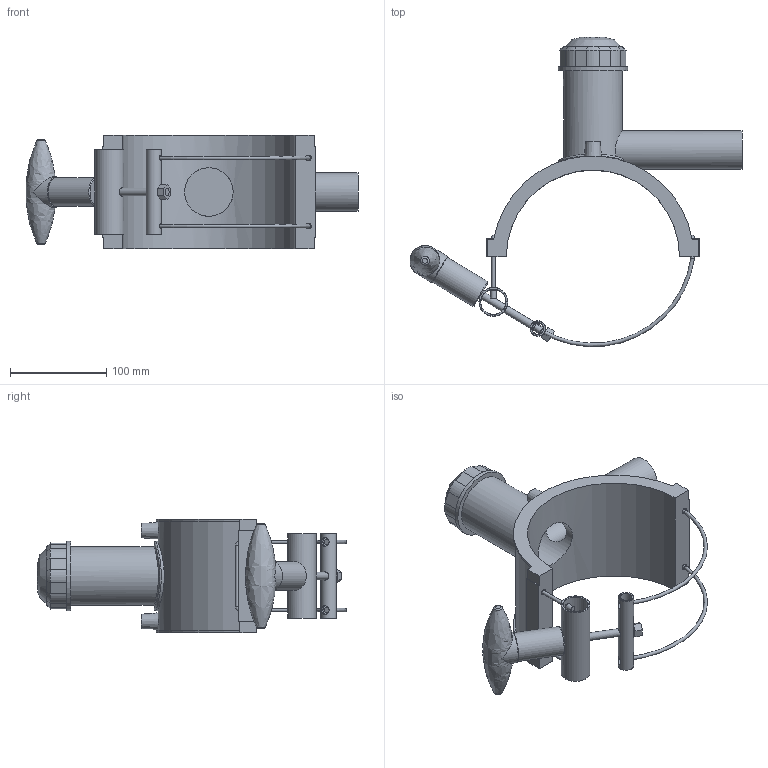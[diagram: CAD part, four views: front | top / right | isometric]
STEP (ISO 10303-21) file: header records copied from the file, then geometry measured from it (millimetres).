
FILE_DESCRIPTION(/* description */ ('PLASSON TAPPING SADDLE 180x40'),/* implementation_level */ '2;1');
FILE_NAME(/* name */ 'C:\Dropbox\99-16-3568-Processing\ElectroFusion Fittings\4963Q4 (new clamping)\4963Q4180040.ipt.stp',/* time_stamp */ '2021-03-07T12:51:38+02:00',/* author */ ('KIM'),/* organization */ (''),/* preprocessor_version */ 'ST-DEVELOPER v17.2',/* originating_system */ 'Autodesk Inventor 2019',/* authorisation */ '');
FILE_SCHEMA (('AUTOMOTIVE_DESIGN { 1 0 10303 214 3 1 1 }'));
Length unit declared in the file: millimetre
Products named in the file (1): 4963Q4180040
Bounding box: 345.18 x 321.47 x 118 mm (x, y, z)
Volume: 845983.4 mm3; surface area: 211003.8 mm2
Topology: 6 solids, 6 shells, 176 faces, 447 edges, 295 vertices
Faces by surface type: plane 83, cylinder 58, cone 19, torus 9, bspline 7
Full cylindrical faces by diameter (mm): 3.6 x5, 4 x4, 4.6 x2, 6 x8, 8 x2, 8.5 x2, 9 x2, 10 x2, 12 x1, 16 x1, 26 x1, 30 x2, 32 x2, 40 x1, 50.4 x1, 61.2 x1, 72 x1
Entity records: 7119 total; most frequent: CARTESIAN_POINT 2795, ORIENTED_EDGE 894, DIRECTION 853, EDGE_CURVE 447, AXIS2_PLACEMENT_3D 327, VERTEX_POINT 295, EDGE_LOOP 226, LINE 199
